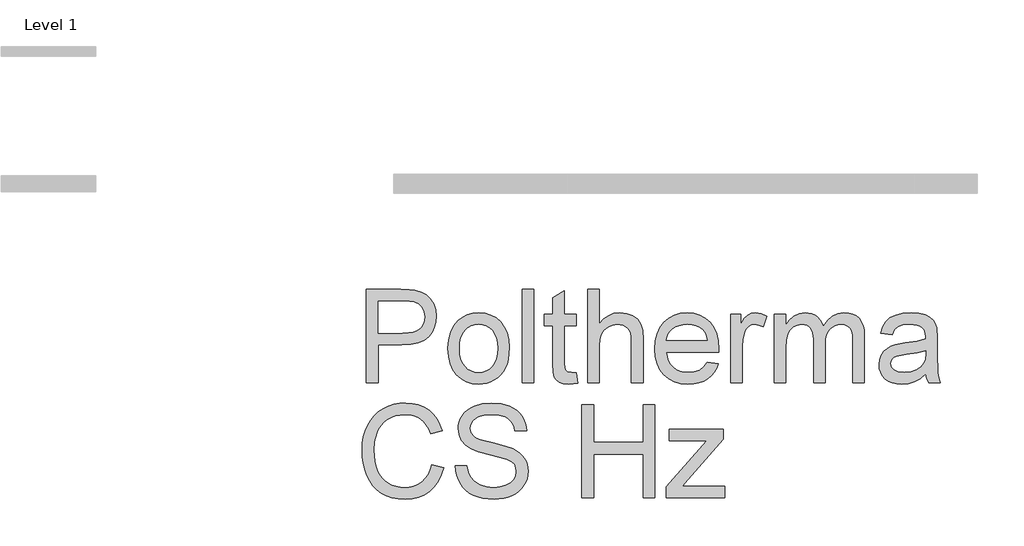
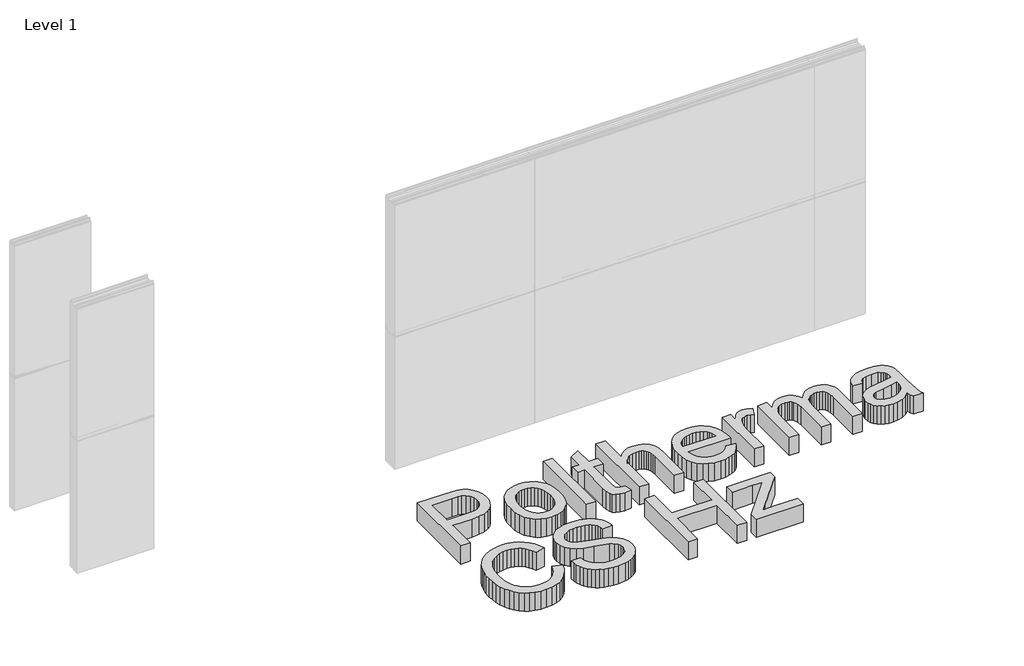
# One storey, part 11 of 27: 1 proxy.
"""IFC4 building model written with IfcOpenShell, lengths in millimetres."""

import ifcopenshell
import ifcopenshell.guid

model = None  # the IFC model being written
_history = None  # IfcOwnerHistory: only IFC2X3 demands one
_inside = {}  # id of a spatial element -> (the spatial element, [elements in it])
_under = {}  # id of a project, library or spatial element -> (it, [spatial elements below it])
_declared = {}  # id of a project -> (the project, [libraries it declares])
_typed = {}  # id of a type object -> (the type object, [elements of that type])
_made_of = {}  # id of a material, layer set ... -> (it, [elements and type objects made of it])


def new_model(schema):
    """Start an empty IFC model of exactly this schema.

    Asked for "IFC4X3", IfcOpenShell would pick the latest addendum, in which some entities
    have other attributes; the version numbers below select the first issue.
    IFC2X3 requires an IfcOwnerHistory on every rooted entity: one is made here for all.
    """
    global model, _history
    if schema == "IFC4X3":
        model = ifcopenshell.file(schema_version=(4, 3, 0, 0))
    else:
        model = ifcopenshell.file(schema=schema)
    _inside.clear()
    _under.clear()
    _declared.clear()
    _typed.clear()
    _made_of.clear()
    _history = None
    if model.schema == "IFC2X3":
        org = make("IfcOrganization", Name="unknown")
        user = make(
            "IfcPersonAndOrganization",
            ThePerson=make("IfcPerson", FamilyName="unknown"),
            TheOrganization=org,
        )
        app = make(
            "IfcApplication",
            ApplicationDeveloper=org,
            Version="unknown",
            ApplicationFullName="unknown",
            ApplicationIdentifier="unknown",
        )
        _history = make(
            "IfcOwnerHistory",
            OwningUser=user,
            OwningApplication=app,
            ChangeAction="ADDED",
            CreationDate=0,
        )
    return model


def make(cls, **values):
    """One entity of the class cls with the attributes given. An attribute that is None is left unset."""
    return model.create_entity(
        cls, **{name: value for name, value in values.items() if value is not None}
    )


def rooted(cls, **values):
    """An entity with a GlobalId (a new one), such as an element, a storey or a relation."""
    return make(cls, GlobalId=ifcopenshell.guid.new(), OwnerHistory=_history, **values)


def si_unit(unit_type, name, prefix=None):
    """IfcSIUnit, for example si_unit("LENGTHUNIT", "METRE", prefix="MILLI")."""
    return make("IfcSIUnit", UnitType=unit_type, Prefix=prefix, Name=name)


def assignment(units):
    """IfcUnitAssignment: the units of a project."""
    return None if units is None else make("IfcUnitAssignment", Units=units)


def point(xyz):
    """IfcCartesianPoint."""
    return None if xyz is None else make("IfcCartesianPoint", Coordinates=xyz)


def direction(xyz):
    """IfcDirection."""
    return None if xyz is None else make("IfcDirection", DirectionRatios=xyz)


def frame(location, z_axis=None, x_axis=None):
    """IfcAxis2Placement3D, a coordinate frame: its origin and axes. An axis left out is left unset."""
    return make(
        "IfcAxis2Placement3D",
        Location=point(location),
        Axis=direction(z_axis),
        RefDirection=direction(x_axis),
    )


def origin():
    """The frame at (0, 0, 0) with its axes left unset."""
    return frame((0.0, 0.0, 0.0))


def origin_with_axes():
    """The frame at (0, 0, 0) with the z axis (0, 0, 1) and the x axis (1, 0, 0) written out."""
    return frame((0.0, 0.0, 0.0), z_axis=(0.0, 0.0, 1.0), x_axis=(1.0, 0.0, 0.0))


def place(relative_to, where):
    """IfcLocalPlacement: puts the frame where relative to a parent placement (None: the world)."""
    return make(
        "IfcLocalPlacement", PlacementRelTo=relative_to, RelativePlacement=where
    )


def context(
    kind, dimensions, precision=None, world=None, true_north=None, identifier=None
):
    """IfcGeometricRepresentationContext, for example the 3D "Model" context."""
    return make(
        "IfcGeometricRepresentationContext",
        ContextIdentifier=identifier,
        ContextType=kind,
        CoordinateSpaceDimension=dimensions,
        Precision=precision,
        WorldCoordinateSystem=world,
        TrueNorth=true_north,
    )


def project(units=None, contexts=None):
    """IfcProject with its units and contexts."""
    return rooted(
        "IfcProject",
        Name="project",
        RepresentationContexts=contexts,
        UnitsInContext=assignment(units),
    )


def spatial(cls, under=None, at=None, **own):
    """A site, building, storey or space (cls), placed at a placement, below another one or the project."""
    s = rooted(cls, ObjectPlacement=at, **own)
    if under is not None:
        _under.setdefault(under.id(), (under, []))[1].append(s)
    return s


def polyline(points):
    """IfcPolyline through the points."""
    return make("IfcPolyline", Points=[point(p) for p in points])


def outline(outer, holes=None, kind="AREA"):
    """IfcArbitraryClosedProfileDef: a profile drawn as a closed curve; with holes, ...WithVoids."""
    if holes is None:
        return make("IfcArbitraryClosedProfileDef", ProfileType=kind, OuterCurve=outer)
    return make(
        "IfcArbitraryProfileDefWithVoids",
        ProfileType=kind,
        OuterCurve=outer,
        InnerCurves=holes,
    )


def extrude(swept, where, along, depth):
    """IfcExtrudedAreaSolid: the profile swept, set in the frame where, extruded along a direction by depth."""
    return make(
        "IfcExtrudedAreaSolid",
        SweptArea=swept,
        Position=where,
        ExtrudedDirection=direction(along),
        Depth=depth,
    )


def shape(context_of_items, identifier, shape_type, items):
    """IfcShapeRepresentation: the items that make up one representation, for example the "Body"."""
    return make(
        "IfcShapeRepresentation",
        ContextOfItems=context_of_items,
        RepresentationIdentifier=identifier,
        RepresentationType=shape_type,
        Items=items,
    )


def made_of(thing, what):
    """Note that an element or type object is made of a material, layer set ...; save() writes the relation."""
    if what is not None:
        _made_of.setdefault(what.id(), (what, []))[1].append(thing)
    return thing


def element(
    cls,
    number,
    at=None,
    inside=None,
    cuts=None,
    type_object=None,
    material=None,
    context=None,
    identifier="Body",
    shape_type=None,
    held_by="IfcProductDefinitionShape",
    body=None,
    shapes=None,
    **own,
):
    """One element of the class cls, such as IfcWall. Its Tag is "e" and its number.

    at: its placement. inside: the storey or other place that contains it. cuts: it is an
    opening in that element (IfcRelVoidsElement). A single representation is given by context,
    identifier, shape_type and body (its items); several are given by shapes. held_by: the class
    of the entity that holds the representations. save() writes the other relations.
    """
    e = rooted(cls, Tag="e%d" % number, ObjectPlacement=at, **own)
    if body is not None:
        shapes = [shape(context, identifier, shape_type, body)]
    if shapes is not None:
        e.Representation = make(held_by, Representations=shapes)
    if inside is not None:
        _inside.setdefault(inside.id(), (inside, []))[1].append(e)
    if cuts is not None:
        rooted(
            "IfcRelVoidsElement", RelatingBuildingElement=cuts, RelatedOpeningElement=e
        )
    if type_object is not None:
        _typed.setdefault(type_object.id(), (type_object, []))[1].append(e)
    return made_of(e, material)


def aggregate(whole, parts):
    """IfcRelAggregates: a whole, such as a stair, and the parts it consists of."""
    return rooted("IfcRelAggregates", RelatingObject=whole, RelatedObjects=parts)


def save(model, path):
    """Write the relations noted so far, then the file.

    IfcRelAggregates (storeys below a building ...), IfcRelContainedInSpatialStructure (elements
    in a storey), IfcRelDefinesByType, IfcRelAssociatesMaterial and IfcRelDeclares: one each for
    every whole, place, type object, material and project.
    """
    for whole, parts in _under.values():
        aggregate(whole, parts)
    for where, things in _inside.values():
        rooted(
            "IfcRelContainedInSpatialStructure",
            RelatedElements=things,
            RelatingStructure=where,
        )
    for kind, things in _typed.values():
        rooted("IfcRelDefinesByType", RelatedObjects=things, RelatingType=kind)
    for what, things in _made_of.values():
        rooted("IfcRelAssociatesMaterial", RelatedObjects=things, RelatingMaterial=what)
    for by, libraries in _declared.values():
        rooted("IfcRelDeclares", RelatingContext=by, RelatedDefinitions=libraries)
    model.write(path)


model = new_model("IFC4")

# Units and contexts
model_context = context("Model", 3, world=origin())
ifc_project = project(units=[si_unit("LENGTHUNIT", "METRE", prefix="MILLI")], contexts=[model_context])

# Site, building, storey
site = spatial("IfcSite", under=ifc_project)
building = spatial("IfcBuilding", under=site)
storey = spatial("IfcBuildingStorey", under=building, Name="Level 1", Elevation=0.0)

# Proxy
placement = place(None, origin())
element("IfcBuildingElementProxy", 1, Name="600mm Arial", ObjectType="600mm Arial", at=placement, inside=storey, context=model_context, shape_type="SweptSolid", body=[
    extrude(outline(polyline([(-5848.6839203, -19557.7938606), (-5848.6839203, -18967.0246299), (-5629.7416126, -18967.0246299), (-5578.7560357, -18968.4308799), (-5541.4723818, -18972.6496299), (-5502.1154107, -18983.1604472), (-5469.7175741, -19000.2698222), (-5443.6298337, -19024.7529953), (-5423.2031511, -19057.3852068), (-5410.0060357, -19095.8767933), (-5405.6069972, -19137.9380914), (-5408.5772496, -19174.2031154), (-5417.4880068, -19207.5654953), (-5432.3392688, -19238.0252308), (-5453.1310357, -19265.5823222), (-5481.6752063, -19288.4248703), (-5519.7836799, -19304.740976), (-5567.4564563, -19314.5306395), (-5624.6935357, -19317.7938606), (-5774.8377664, -19317.7938606), (-5774.8377664, -19557.7938606), (-5848.6839203, -19557.7938606)]), holes=[polyline([(-5774.8377664, -19243.9477068), (-5620.3666126, -19243.9477068), (-5584.8497857, -19242.2529953), (-5554.8858434, -19237.1688606), (-5530.4747857, -19228.6953029), (-5511.6166126, -19216.8323222), (-5497.5450982, -19201.8954231), (-5487.4940164, -19184.2001106), (-5481.4633674, -19163.7463847), (-5479.4531511, -19140.5342453), (-5484.1947376, -19107.3611683), (-5498.4194972, -19079.3803991), (-5520.360603, -19058.3227068), (-5548.251228, -19045.9188606), (-5576.7368049, -19042.1328029), (-5622.0973818, -19040.8707837), (-5774.8377664, -19040.8707837), (-5774.8377664, -19243.9477068)])]), origin_with_axes(), (0.0, 0.0, 1.0), 150.0),
    extrude(outline(polyline([(-5331.7608434, -19340.8707837), (-5327.7674539, -19284.6838847), (-5315.7872857, -19236.2674183), (-5295.8203386, -19195.6213847), (-5267.8666126, -19162.7457837), (-5239.7235837, -19141.7331635), (-5208.6598818, -19126.7241491), (-5174.6755068, -19117.7187404), (-5137.7704587, -19114.7169376), (-5097.0297737, -19118.3722861), (-5060.1923337, -19129.3383318), (-5027.258139, -19147.6150746), (-4998.2271895, -19173.2025145), (-4974.5327785, -19205.2352669), (-4957.6081991, -19242.8479472), (-4947.4534515, -19286.0405553), (-4944.0685357, -19334.8130914), (-4945.5649299, -19374.3413366), (-4950.0541126, -19409.4164568), (-4957.5360837, -19440.038452), (-4968.0108434, -19466.2073222), (-4981.3476823, -19488.810988), (-4997.4158914, -19508.7373703), (-5016.2154708, -19525.9864688), (-5037.7464203, -19540.5582837), (-5061.1703987, -19552.1373102), (-5085.6490645, -19560.4080433), (-5111.1824179, -19565.3704832), (-5137.7704587, -19567.0246299), (-5179.1060958, -19563.3828029), (-5216.2860837, -19552.4573222), (-5249.3104227, -19534.2481876), (-5278.1791126, -19508.7553991), (-5301.6211198, -19476.4116491), (-5318.3654107, -19437.6496299), (-5328.4119852, -19392.4693414), (-5331.7608434, -19340.8707837)]), holes=[polyline([(-5257.9146895, -19340.7265529), (-5255.7782712, -19376.545363), (-5249.3690164, -19407.5594856), (-5238.6869251, -19433.7689207), (-5223.7319972, -19455.1736683), (-5205.5408914, -19471.8007717), (-5185.1502664, -19483.6772741), (-5162.5601222, -19490.8031755), (-5137.7704587, -19493.178476), (-5113.1069972, -19490.7896539), (-5090.6069972, -19483.6231876), (-5070.2704587, -19471.679077), (-5052.0973818, -19454.9573222), (-5037.1424539, -19433.3407356), (-5026.4603626, -19406.7121299), (-5020.0511078, -19375.0715049), (-5017.9146895, -19338.4188606), (-5020.0646294, -19303.7358678), (-5026.5144491, -19273.5330433), (-5037.2641487, -19247.8103871), (-5052.313728, -19226.5678991), (-5070.5544131, -19209.9407957), (-5090.8774299, -19198.0642933), (-5113.2827785, -19190.9383919), (-5137.7704587, -19188.5630914), (-5162.5601222, -19190.9293775), (-5185.1502664, -19198.0282356), (-5205.5408914, -19209.8596659), (-5223.7319972, -19226.4236683), (-5238.6869251, -19247.765315), (-5249.3690164, -19273.9296779), (-5255.7782712, -19304.9167573), (-5257.9146895, -19340.7265529)])]), origin_with_axes(), (0.0, 0.0, 1.0), 150.0),
    extrude(outline(polyline([(-4860.9916126, -19557.7938606), (-4860.9916126, -18967.0246299), (-4787.1454587, -18967.0246299), (-4787.1454587, -19557.7938606), (-4860.9916126, -19557.7938606)])), origin_with_axes(), (0.0, 0.0, 1.0), 150.0),
    extrude(outline(polyline([(-4519.4531511, -19496.2073222), (-4510.2223818, -19559.9573222), (-4565.4627664, -19567.0246299), (-4600.907478, -19563.959726), (-4627.3377664, -19554.7650145), (-4646.0156511, -19540.5943414), (-4658.2031511, -19522.6015529), (-4664.9098818, -19491.7001106), (-4667.1454587, -19438.803476), (-4667.1454587, -19197.7938606), (-4722.5300741, -19197.7938606), (-4722.5300741, -19123.9477068), (-4667.1454587, -19123.9477068), (-4667.1454587, -19018.5150145), (-4593.2993049, -18975.1015529), (-4593.2993049, -19123.9477068), (-4519.4531511, -19123.9477068), (-4519.4531511, -19197.7938606), (-4593.2993049, -19197.7938606), (-4593.2993049, -19436.6400145), (-4589.4050741, -19474.7169376), (-4576.7848818, -19488.2025145), (-4566.1298337, -19491.9344856), (-4551.6166126, -19493.178476), (-4519.4531511, -19496.2073222)])), origin_with_axes(), (0.0, 0.0, 1.0), 150.0),
    extrude(outline(polyline([(-4445.6069972, -19557.7938606), (-4445.6069972, -18967.0246299), (-4371.7608434, -18967.0246299), (-4371.7608434, -19184.2361683), (-4344.6364443, -19153.8215049), (-4314.1767087, -19132.0967453), (-4280.3816366, -19119.0618895), (-4243.251228, -19114.7169376), (-4198.6478626, -19119.4585241), (-4160.3185357, -19133.6832837), (-4130.1382472, -19156.2734279), (-4109.9819972, -19186.1111683), (-4098.6238241, -19227.1087645), (-4094.8377664, -19283.178476), (-4094.8377664, -19557.7938606), (-4168.6839203, -19557.7938606), (-4168.6839203, -19290.8227068), (-4170.1532712, -19265.8888126), (-4174.5613241, -19244.5967453), (-4181.9080789, -19226.9465049), (-4192.1935357, -19212.9380914), (-4205.1743049, -19202.2740289), (-4220.6069972, -19194.6568414), (-4238.4916126, -19190.0865289), (-4258.8281511, -19188.5630914), (-4290.0360837, -19192.6736683), (-4319.3329587, -19205.0053991), (-4343.5997857, -19224.3683799), (-4359.7175741, -19249.5727068), (-4368.7500261, -19283.0703029), (-4371.7608434, -19327.3130914), (-4371.7608434, -19557.7938606), (-4445.6069972, -19557.7938606)])), origin_with_axes(), (0.0, 0.0, 1.0), 150.0),
    extrude(outline(polyline([(-3689.5493049, -19428.5630914), (-3617.1454587, -19437.7938606), (-3628.2467208, -19466.7932597), (-3643.2331991, -19492.3491491), (-3662.1048938, -19514.4615289), (-3684.8618049, -19533.1303991), (-3711.2695573, -19547.9591251), (-3741.0937761, -19558.5510722), (-3774.3344612, -19564.9062404), (-3810.9916126, -19567.0246299), (-3856.8119251, -19563.3692813), (-3897.6382472, -19552.4032356), (-3933.4705789, -19534.1264928), (-3964.3089203, -19508.5390529), (-3989.1075982, -19476.3530553), (-4006.8209395, -19438.2806395), (-4017.4489443, -19394.3218053), (-4020.9916126, -19344.4765529), (-4017.4128866, -19292.9410962), (-4006.6767087, -19247.5174183), (-3988.7830789, -19208.2055193), (-3963.7319972, -19175.0053991), (-3932.9747857, -19148.6291972), (-3897.9627664, -19129.7890529), (-3858.6959395, -19118.4849664), (-3815.1743049, -19114.7169376), (-3773.0544131, -19118.475952), (-3734.9639684, -19129.7529953), (-3700.9029708, -19148.5480674), (-3670.8714203, -19174.8611683), (-3646.3566967, -19207.9891731), (-3628.8461799, -19247.2289568), (-3618.3398698, -19292.5805193), (-3614.8377664, -19344.0438606), (-3615.2704587, -19363.9477068), (-3947.1454587, -19363.9477068), (-3942.868115, -19393.4158558), (-3934.3630068, -19419.2241491), (-3921.6301342, -19441.3725866), (-3904.6694972, -19459.8611683), (-3884.4185958, -19474.4374904), (-3861.8149299, -19484.8491491), (-3836.8584996, -19491.0961443), (-3809.5493049, -19493.178476), (-3770.2464203, -19489.3203029), (-3737.1454587, -19477.7457837), (-3710.2464203, -19457.7337645), (-3689.5493049, -19428.5630914)]), holes=[polyline([(-3947.1454587, -19290.1015529), (-3688.6839203, -19290.1015529), (-3698.6719011, -19251.0871299), (-3707.2626462, -19235.7445818), (-3718.251228, -19223.178476), (-3738.3894491, -19208.0342453), (-3761.3041126, -19197.2169376), (-3786.9952184, -19190.7265529), (-3815.4627664, -19188.5630914), (-3841.4288121, -19190.2893534), (-3865.2404107, -19195.4681395), (-3886.8975621, -19204.0994496), (-3906.4002664, -19216.1832837), (-3922.7659515, -19231.1607477), (-3935.0120453, -19248.4729472), (-3943.1385477, -19268.1198823), (-3947.1454587, -19290.1015529)])]), origin_with_axes(), (0.0, 0.0, 1.0), 150.0),
    extrude(outline(polyline([(-3540.9916126, -19557.7938606), (-3540.9916126, -19123.9477068), (-3476.376228, -19123.9477068), (-3476.376228, -19188.1303991), (-3452.5060357, -19150.9188606), (-3430.5108434, -19128.9957837), (-3408.4435357, -19118.2866491), (-3384.3569972, -19114.7169376), (-3347.5781511, -19120.4140529), (-3310.2223818, -19137.5053991), (-3334.8858434, -19203.7073222), (-3360.8473818, -19192.3491491), (-3386.8089203, -19188.5630914), (-3408.8581991, -19192.2049183), (-3428.563728, -19203.1303991), (-3444.4831991, -19220.5102068), (-3455.1743049, -19243.5150145), (-3464.1526703, -19284.7650145), (-3467.1454587, -19329.7650145), (-3467.1454587, -19557.7938606), (-3540.9916126, -19557.7938606)])), origin_with_axes(), (0.0, 0.0, 1.0), 150.0),
    extrude(outline(polyline([(-3264.0685357, -19557.7938606), (-3264.0685357, -19123.9477068), (-3190.2223818, -19123.9477068), (-3190.2223818, -19195.3419376), (-3168.0108434, -19162.5474664), (-3139.4531511, -19136.8563606), (-3105.5228626, -19120.2517933), (-3067.1935357, -19114.7169376), (-3026.1238241, -19120.3599664), (-3008.6448578, -19127.4137525), (-2993.2031511, -19137.2890529), (-2968.6118049, -19164.3864087), (-2952.5300741, -19200.5342453), (-2925.6130068, -19162.9891731), (-2894.9098818, -19136.1712645), (-2860.4206991, -19120.0805193), (-2822.1454587, -19114.7169376), (-2792.5826583, -19116.9480073), (-2766.6346414, -19123.6412164), (-2744.3014083, -19134.796565), (-2725.5829587, -19150.4140529), (-2710.7857833, -19170.6739688), (-2700.2163722, -19195.756601), (-2693.8747256, -19225.6619496), (-2691.7608434, -19260.3900145), (-2691.7608434, -19557.7938606), (-2765.6069972, -19557.7938606), (-2765.6069972, -19292.1207837), (-2767.3197376, -19255.287851), (-2772.4579587, -19230.4621299), (-2782.0853626, -19213.4609279), (-2797.2656511, -19200.1015529), (-2816.7908914, -19191.4477068), (-2839.4531511, -19188.5630914), (-2860.3801342, -19190.4110481), (-2879.4591607, -19195.9549183), (-2896.6902304, -19205.194702), (-2912.0733434, -19218.1303991), (-2924.7250862, -19235.1406154), (-2933.7620453, -19256.6039568), (-2939.1842208, -19282.5204231), (-2940.9916126, -19312.8900145), (-2940.9916126, -19557.7938606), (-3014.8377664, -19557.7938606), (-3014.8377664, -19283.8996299), (-3019.110603, -19242.1448222), (-3031.9291126, -19212.3611683), (-3041.8404708, -19201.9495097), (-3054.4831991, -19194.5126106), (-3069.8572977, -19190.0504712), (-3087.9627664, -19188.5630914), (-3116.4122857, -19192.5294376), (-3142.626228, -19204.428476), (-3164.2608434, -19223.9717453), (-3178.9723818, -19250.8707837), (-3187.4098818, -19288.1904953), (-3190.2223818, -19338.9957837), (-3190.2223818, -19557.7938606), (-3264.0685357, -19557.7938606)])), origin_with_axes(), (0.0, 0.0, 1.0), 150.0),
    extrude(outline(polyline([(-2304.0685357, -19502.4092453), (-2339.3509876, -19532.6616491), (-2375.6791126, -19552.4573222), (-2413.8822376, -19563.3828029), (-2454.7896895, -19567.0246299), (-2487.6697977, -19564.8341251), (-2516.5024299, -19558.2626106), (-2541.2875862, -19547.3100866), (-2562.0252664, -19531.9765529), (-2578.399966, -19513.2355674), (-2590.0961799, -19492.0606876), (-2597.1139083, -19468.4519135), (-2599.4531511, -19442.4092453), (-2595.9194972, -19411.7962645), (-2585.3185357, -19383.9957837), (-2568.9663722, -19360.1977068), (-2548.1791126, -19341.5919376), (-2523.7500261, -19327.5294376), (-2496.4723818, -19317.3611683), (-2432.5781511, -19306.2553991), (-2357.0733434, -19294.5727068), (-2304.501228, -19280.8707837), (-2304.0685357, -19264.428476), (-2309.1526703, -19231.4717453), (-2315.5078386, -19219.2662164), (-2324.4050741, -19209.9092453), (-2339.7836799, -19200.5703029), (-2358.5156511, -19193.8996299), (-2406.0396895, -19188.5630914), (-2450.0300741, -19192.1147741), (-2480.751228, -19202.7698222), (-2501.7007472, -19222.475351), (-2516.376228, -19253.178476), (-2590.2223818, -19243.9477068), (-2577.4038722, -19203.5630914), (-2558.2752664, -19171.8323222), (-2531.0517087, -19147.5654953), (-2493.9483434, -19129.5727068), (-2448.5697376, -19118.4308799), (-2396.5204587, -19114.7169376), (-2346.5985837, -19117.9981876), (-2307.0252664, -19127.8419376), (-2277.1875261, -19142.6436203), (-2256.4723818, -19160.7986683), (-2242.7344011, -19183.2445818), (-2233.8281511, -19210.9188606), (-2230.2223818, -19275.5342453), (-2230.2223818, -19367.4092453), (-2226.4723818, -19495.7025145), (-2220.9194972, -19527.4152549), (-2211.7608434, -19557.7938606), (-2285.6069972, -19557.7938606), (-2297.4339203, -19532.1207837), (-2304.0685357, -19502.4092453)]), holes=[polyline([(-2304.0685357, -19354.7169376), (-2353.6839203, -19367.0126106), (-2423.2031511, -19377.3611683), (-2486.7368049, -19389.3323222), (-2503.2692568, -19397.5174183), (-2515.5108434, -19408.803476), (-2523.0829587, -19422.3251106), (-2525.6069972, -19437.2169376), (-2520.1081991, -19459.1760722), (-2503.6118049, -19477.1688606), (-2476.4783914, -19489.1760722), (-2439.0685357, -19493.178476), (-2399.4050741, -19488.7614087), (-2364.3569972, -19475.5102068), (-2335.9435357, -19455.9849664), (-2316.1839203, -19432.7457837), (-2307.4219011, -19408.803476), (-2304.501228, -19375.6303991), (-2304.0685357, -19354.7169376)])]), origin_with_axes(), (0.0, 0.0, 1.0), 150.0),
    extrude(outline(polyline([(-5433.2993049, -20077.0246299), (-5359.4531511, -20096.0630914), (-5374.0655309, -20141.9870698), (-5393.5276703, -20182.1147741), (-5417.8395693, -20216.4462044), (-5447.001228, -20244.9813606), (-5480.3545934, -20267.4137525), (-5517.2416126, -20283.4368895), (-5557.6622857, -20293.0507717), (-5601.6166126, -20296.2553991), (-5646.6481631, -20293.8305193), (-5687.2716607, -20286.5558799), (-5723.4871054, -20274.4314808), (-5755.2944972, -20257.4573222), (-5783.1310357, -20235.8858078), (-5807.4339203, -20209.9693414), (-5828.2031511, -20179.7079231), (-5845.438728, -20145.1015529), (-5858.9738842, -20107.6466251), (-5868.641853, -20068.8395337), (-5874.4426342, -20028.6802789), (-5876.376228, -19987.1688606), (-5874.1902304, -19942.6285962), (-5867.6322376, -19901.0270337), (-5856.7022496, -19862.3641731), (-5841.4002664, -19826.6400145), (-5822.0688362, -19794.4450025), (-5799.0505068, -19766.3695818), (-5772.3452785, -19742.4137525), (-5741.9531511, -19722.5775145), (-5708.9062761, -19707.0231275), (-5674.2368049, -19695.912851), (-5637.9447376, -19689.2466852), (-5600.0300741, -19687.0246299), (-5557.7929948, -19689.9002308), (-5519.0625261, -19698.5270337), (-5483.8386679, -19712.9050385), (-5452.1214203, -19733.0342453), (-5424.4336198, -19758.3828029), (-5401.298103, -19788.4188606), (-5382.7148698, -19823.1424183), (-5368.6839203, -19862.553476), (-5442.5300741, -19880.1496299), (-5454.1586799, -19851.1096659), (-5468.1310357, -19826.2974664), (-5484.4471414, -19805.7130313), (-5503.1069972, -19789.3563606), (-5524.2187761, -19776.8939207), (-5547.8906511, -19767.9921779), (-5574.1226222, -19762.6511323), (-5602.9146895, -19760.8707837), (-5636.0426943, -19762.8449424), (-5666.3401703, -19768.7674183), (-5693.8071174, -19778.6382116), (-5718.4435357, -19792.4573222), (-5739.9384275, -19809.6027549), (-5757.9807953, -19829.4525145), (-5772.570639, -19852.006601), (-5783.7079587, -19877.2650145), (-5797.8245453, -19931.3154953), (-5802.5300741, -19987.0246299), (-5796.9591607, -20055.2457837), (-5789.9955188, -20085.8948222), (-5780.2464203, -20114.2361683), (-5767.5541126, -20139.7064207), (-5751.7608434, -20161.7421779), (-5732.8666126, -20180.34344), (-5710.8714203, -20195.5102068), (-5686.8434756, -20207.2785361), (-5661.8509876, -20215.6844856), (-5635.8939563, -20220.7280553), (-5608.9723818, -20222.4092453), (-5576.867514, -20220.1195818), (-5547.3317568, -20213.2505914), (-5520.3651102, -20201.8022741), (-5495.9675741, -20185.7746299), (-5474.7160717, -20165.2397741), (-5457.1875261, -20140.2698222), (-5443.3819371, -20110.8647741), (-5433.2993049, -20077.0246299)])), origin_with_axes(), (0.0, 0.0, 1.0), 150.0),
    extrude(outline(polyline([(-5285.6069972, -20083.9477068), (-5211.7608434, -20083.9477068), (-5203.2872857, -20124.9272741), (-5187.9627664, -20157.865976), (-5164.0565164, -20184.0078029), (-5129.8377664, -20204.5967453), (-5088.0108434, -20217.9561203), (-5041.2800741, -20222.4092453), (-5000.1382472, -20219.037851), (-4964.1166126, -20208.9236683), (-4934.9279107, -20192.9140529), (-4914.2848818, -20171.8563606), (-4902.0072376, -20147.6796779), (-4897.9146895, -20122.3130914), (-4900.9795934, -20097.5955433), (-4910.1743049, -20076.2313606), (-4928.8521895, -20058.0041972), (-4960.3666126, -20042.6977068), (-5067.8906511, -20014.5005914), (-5138.4735837, -19995.8407356), (-5183.6358434, -19978.0823222), (-5220.3966607, -19953.2385722), (-5246.4483434, -19923.1303991), (-5261.9711799, -19888.4068414), (-5267.1454587, -19849.7169376), (-5265.5453987, -19827.7262525), (-5260.7452184, -19806.4657356), (-5252.7449179, -19785.9353871), (-5241.5444972, -19766.1352068), (-5227.2701583, -19747.8719856), (-5210.048103, -19731.9525145), (-5189.8783313, -19718.3767933), (-5166.7608434, -19707.1448222), (-5114.8017087, -19692.0546779), (-5057.2896895, -19687.0246299), (-4994.9819972, -19692.2890529), (-4940.4627664, -19708.0823222), (-4916.610603, -19719.8461443), (-4895.6791126, -19734.0799183), (-4877.6682953, -19750.7836443), (-4862.5781511, -19769.9573222), (-4850.5258674, -19791.0420578), (-4841.6286318, -19813.4789568), (-4835.8864443, -19837.2680193), (-4833.2993049, -19862.4092453), (-4907.1454587, -19862.4092453), (-4912.0853626, -19838.8455433), (-4920.7031511, -19818.3467453), (-4932.9988241, -19800.912851), (-4948.9723818, -19786.5438606), (-4968.9213001, -19775.3118895), (-4993.1430549, -19767.2890529), (-5021.6376462, -19762.475351), (-5054.4050741, -19760.8707837), (-5088.2181751, -19762.4573222), (-5117.1094011, -19767.2169376), (-5141.078752, -19775.1496299), (-5160.126228, -19786.2553991), (-5174.6394491, -19799.6057597), (-5185.0060357, -19814.272226), (-5191.2259876, -19830.2547981), (-5193.2993049, -19847.553476), (-5187.4219011, -19875.9308799), (-5169.7896895, -19898.7553991), (-5153.5997857, -19908.9056395), (-5128.1069972, -19919.1640529), (-5049.2127664, -19940.0053991), (-4967.7944972, -19959.8010722), (-4918.5396895, -19977.0727068), (-4876.4423337, -20003.8635722), (-4860.1667929, -20019.6117693), (-4847.0733434, -20036.928476), (-4837.00874, -20055.7235481), (-4829.8197376, -20075.9068414), (-4824.0685357, -20120.4380914), (-4825.7226823, -20143.5375505), (-4830.6851222, -20165.9609279), (-4838.9558554, -20187.7082236), (-4850.5348818, -20208.7794376), (-4865.219377, -20228.3587645), (-4882.8065164, -20245.6303991), (-4903.2963001, -20260.5943414), (-4926.688728, -20273.2505914), (-4952.3032112, -20283.3151948), (-4979.4591607, -20290.5041972), (-5038.3954587, -20296.2553991), (-5076.1703987, -20294.7049183), (-5110.7452184, -20290.053476), (-5142.1199179, -20282.3010722), (-5170.2944972, -20271.4477068), (-5195.4402304, -20257.475351), (-5217.7283914, -20240.365976), (-5237.1589804, -20220.1195818), (-5253.7319972, -20196.7361683), (-5267.0823578, -20170.9729472), (-5276.844978, -20143.5871299), (-5283.0198578, -20114.5787164), (-5285.6069972, -20083.9477068)])), origin_with_axes(), (0.0, 0.0, 1.0), 150.0),
    extrude(outline(polyline([(-4482.5300741, -20287.0246299), (-4482.5300741, -19696.2553991), (-4408.6839203, -19696.2553991), (-4408.6839203, -19936.2553991), (-4094.8377664, -19936.2553991), (-4094.8377664, -19696.2553991), (-4020.9916126, -19696.2553991), (-4020.9916126, -20287.0246299), (-4094.8377664, -20287.0246299), (-4094.8377664, -20010.1015529), (-4408.6839203, -20010.1015529), (-4408.6839203, -20287.0246299), (-4482.5300741, -20287.0246299)])), origin_with_axes(), (0.0, 0.0, 1.0), 150.0),
    extrude(outline(polyline([(-3947.1454587, -20287.0246299), (-3947.1454587, -20217.5053991), (-3692.2896895, -19927.0246299), (-3767.7223818, -19927.0246299), (-3928.6839203, -19927.0246299), (-3928.6839203, -19853.178476), (-3587.1454587, -19853.178476), (-3587.1454587, -19915.9188606), (-3813.1550741, -20173.6592453), (-3847.7704587, -20213.178476), (-3762.3858434, -20213.178476), (-3577.9146895, -20213.178476), (-3577.9146895, -20287.0246299), (-3947.1454587, -20287.0246299)])), origin_with_axes(), (0.0, 0.0, 1.0), 150.0),
])

save(model, "model.ifc")
